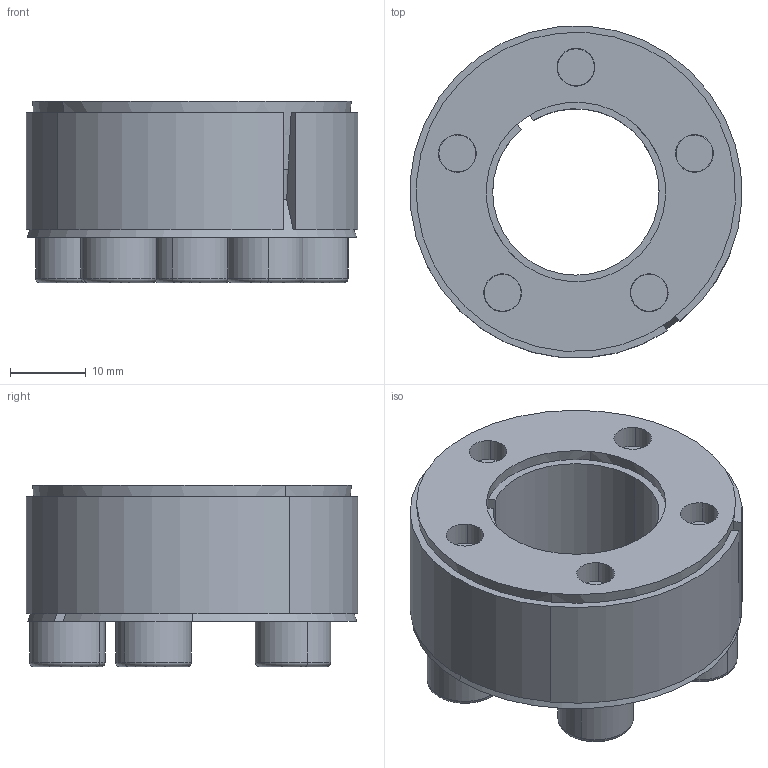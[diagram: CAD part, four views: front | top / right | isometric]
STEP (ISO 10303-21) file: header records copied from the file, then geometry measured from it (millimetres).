
FILE_DESCRIPTION (( 'STEP AP214' ), '1' );
FILE_NAME ('CONEX-L-22x44.step', '2013-04-06T13:22:21', ( 'Pc' ), ( '' ), 'SwSTEP 2.0', 'SolidWorks 2013', '' );
FILE_SCHEMA (( 'AUTOMOTIVE_DESIGN' ));
Length unit declared in the file: millimetre
Products named in the file (1): CONEX-L-22x44
Bounding box: 43.9 x 43.87 x 24.01 mm (x, y, z)
Volume: 19100.6 mm3; surface area: 16787.5 mm2
Topology: 8 solids, 8 shells, 192 faces, 441 edges, 265 vertices
Faces by surface type: plane 86, cylinder 50, cone 36, torus 20
Entity records: 7626 total; most frequent: DIRECTION 1018, CARTESIAN_POINT 922, ORIENTED_EDGE 862, EDGE_CURVE 431, AXIS2_PLACEMENT_3D 402, VERTEX_POINT 265, EDGE_LOOP 228, VECTOR 214
